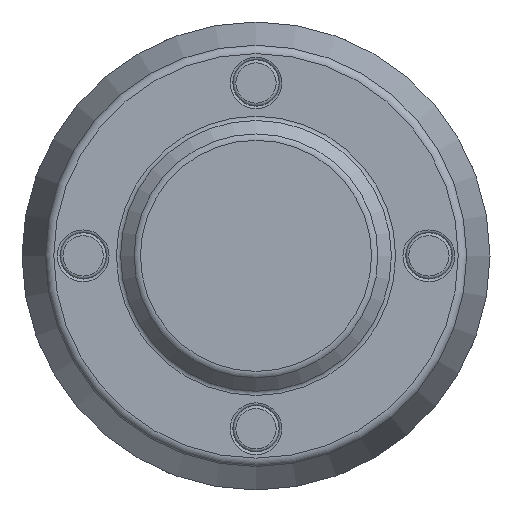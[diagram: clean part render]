
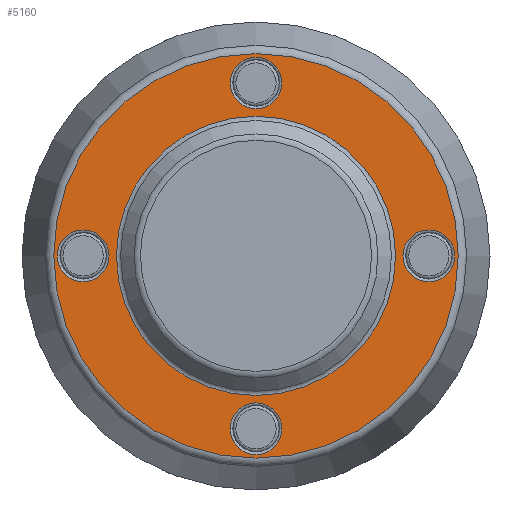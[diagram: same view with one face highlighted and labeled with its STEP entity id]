
A CAD part, top view. The second image highlights one B-rep face of the part: STEP entity #5160.
In plain terms, the highlighted planar face has unit normal (0, 0, 1).
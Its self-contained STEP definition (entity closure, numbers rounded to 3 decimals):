
#5160=ADVANCED_FACE('',(#16154,#16156,#16158,#16160,#16162,#16164),#16166,.T.);
#16154=FACE_BOUND('',#16155,.T.);
#16155=EDGE_LOOP('',(#83342));
#16156=FACE_BOUND('',#16157,.T.);
#16157=EDGE_LOOP('',(#83343));
#16158=FACE_BOUND('',#16159,.T.);
#16159=EDGE_LOOP('',(#83344));
#16160=FACE_BOUND('',#16161,.T.);
#16161=EDGE_LOOP('',(#83345));
#16162=FACE_BOUND('',#16163,.T.);
#16163=EDGE_LOOP('',(#83346));
#16164=FACE_BOUND('',#16165,.T.);
#16165=EDGE_LOOP('',(#83347));
#16166=PLANE('',#16167);
#16167=AXIS2_PLACEMENT_3D('',#16168,#16169,#16170);
#16168=CARTESIAN_POINT('',(0.,0.,-12.));
#16169=DIRECTION('',(0.,0.,1.));
#16170=DIRECTION('',(-1.,0.,0.));
#83342=ORIENTED_EDGE('',*,*,#88875,.F.);
#83343=ORIENTED_EDGE('',*,*,#88876,.F.);
#83344=ORIENTED_EDGE('',*,*,#88877,.F.);
#83345=ORIENTED_EDGE('',*,*,#88878,.T.);
#83346=ORIENTED_EDGE('',*,*,#88879,.F.);
#83347=ORIENTED_EDGE('',*,*,#88880,.F.);
#88875=EDGE_CURVE('',#94390,#94390,#94391,.T.);
#88876=EDGE_CURVE('',#94392,#94392,#94393,.F.);
#88877=EDGE_CURVE('',#94394,#94394,#94395,.F.);
#88878=EDGE_CURVE('',#94396,#94396,#94397,.T.);
#88879=EDGE_CURVE('',#94398,#94398,#94399,.F.);
#88880=EDGE_CURVE('',#94400,#94400,#94401,.F.);
#94390=VERTEX_POINT('',#125705);
#94391=CIRCLE('',#125706,135.692);
#94392=VERTEX_POINT('',#125710);
#94393=CIRCLE('',#125711,17.4);
#94394=VERTEX_POINT('',#125715);
#94395=CIRCLE('',#125716,17.4);
#94396=VERTEX_POINT('',#125720);
#94397=CIRCLE('',#125721,93.657);
#94398=VERTEX_POINT('',#125725);
#94399=CIRCLE('',#125726,17.4);
#94400=VERTEX_POINT('',#125730);
#94401=CIRCLE('',#125731,17.4);
#125705=CARTESIAN_POINT('',(-135.692,0.,-12.));
#125706=AXIS2_PLACEMENT_3D('',#125707,#125708,#125709);
#125707=CARTESIAN_POINT('',(0.,0.,-12.));
#125708=DIRECTION('',(0.,0.,-1.));
#125709=DIRECTION('',(-1.,0.,0.));
#125710=CARTESIAN_POINT('',(0.,133.4,-12.));
#125711=AXIS2_PLACEMENT_3D('',#125712,#125713,#125714);
#125712=CARTESIAN_POINT('',(0.,116.,-12.));
#125713=DIRECTION('',(0.,0.,-1.));
#125714=DIRECTION('',(0.,1.,0.));
#125715=CARTESIAN_POINT('',(0.,-133.4,-12.));
#125716=AXIS2_PLACEMENT_3D('',#125717,#125718,#125719);
#125717=CARTESIAN_POINT('',(0.,-116.,-12.));
#125718=DIRECTION('',(0.,0.,-1.));
#125719=DIRECTION('',(0.,-1.,0.));
#125720=CARTESIAN_POINT('',(-93.657,0.,-12.));
#125721=AXIS2_PLACEMENT_3D('',#125722,#125723,#125724);
#125722=CARTESIAN_POINT('',(0.,0.,-12.));
#125723=DIRECTION('',(0.,0.,-1.));
#125724=DIRECTION('',(-1.,0.,0.));
#125725=CARTESIAN_POINT('',(-133.4,0.,-12.));
#125726=AXIS2_PLACEMENT_3D('',#125727,#125728,#125729);
#125727=CARTESIAN_POINT('',(-116.,0.,-12.));
#125728=DIRECTION('',(0.,0.,-1.));
#125729=DIRECTION('',(-1.,0.,0.));
#125730=CARTESIAN_POINT('',(133.4,0.,-12.));
#125731=AXIS2_PLACEMENT_3D('',#125732,#125733,#125734);
#125732=CARTESIAN_POINT('',(116.,0.,-12.));
#125733=DIRECTION('',(0.,0.,-1.));
#125734=DIRECTION('',(1.,0.,0.));
